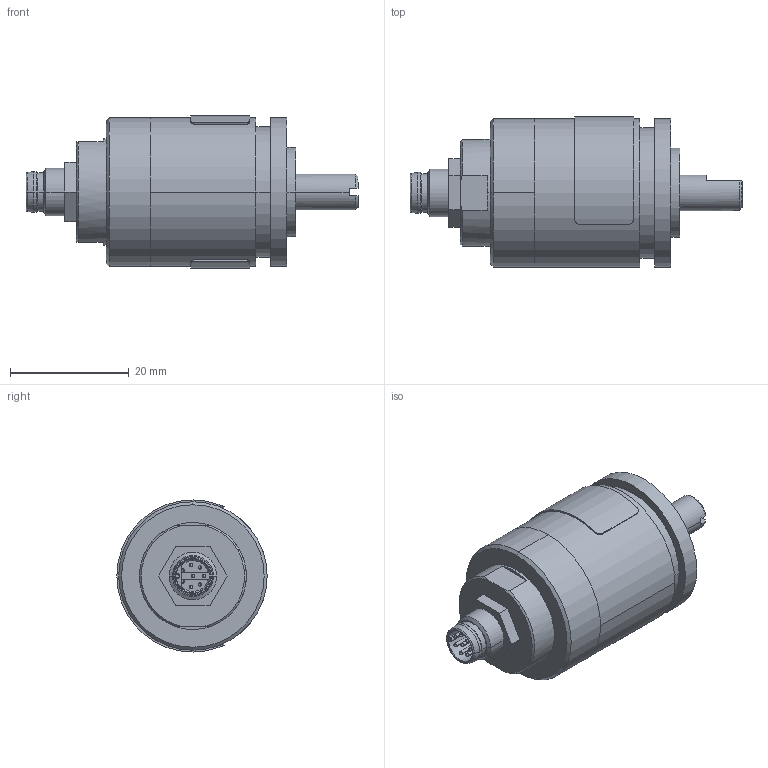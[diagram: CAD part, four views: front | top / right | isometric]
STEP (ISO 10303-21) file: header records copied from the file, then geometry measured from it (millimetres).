
FILE_DESCRIPTION (( 'STEP AP203' ), '1' );
FILE_NAME ('HTx25 6x12 M8.STEP', '2022-05-31T13:12:46', ( '' ), ( '' ), 'SwSTEP 2.0', 'SolidWorks 2019', '' );
FILE_SCHEMA (( 'CONFIG_CONTROL_DESIGN' ));
Length unit declared in the file: millimetre
Products named in the file (1): HTx25 6x12 M8
Bounding box: 55.9 x 25.3 x 25.6 mm (x, y, z)
Surface area: 5798.8 mm2 (no closed solid volume)
Topology: 0 solids, 19 shells, 177 faces, 452 edges, 289 vertices
Faces by surface type: cylinder 74, plane 47, cone 32, bspline 24
Entity records: 5894 total; most frequent: CARTESIAN_POINT 1612, DIRECTION 950, ORIENTED_EDGE 783, EDGE_CURVE 436, AXIS2_PLACEMENT_3D 391, VERTEX_POINT 289, CIRCLE 237, EDGE_LOOP 202
